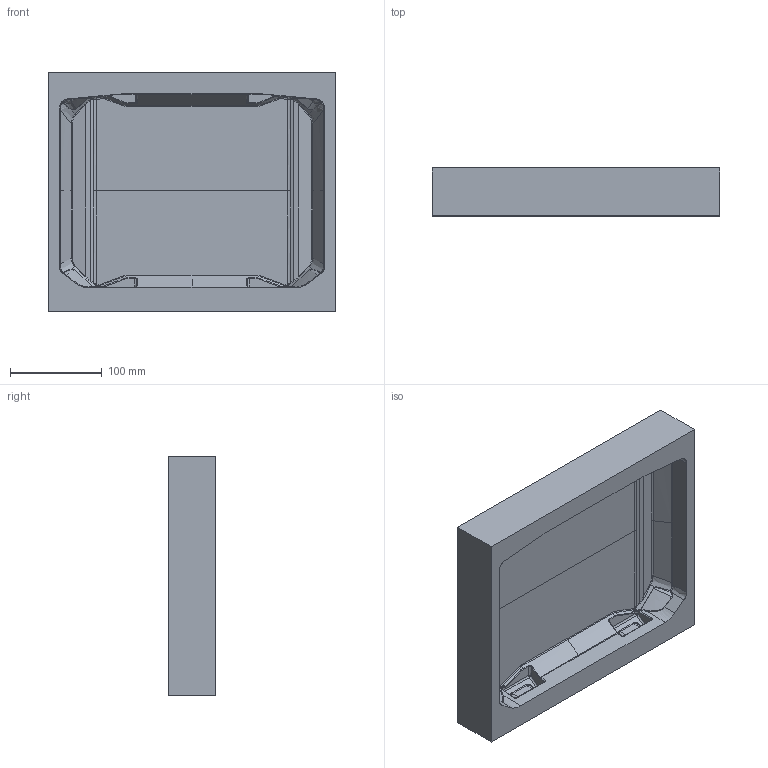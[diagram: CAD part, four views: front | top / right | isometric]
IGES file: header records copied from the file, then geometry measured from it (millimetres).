
Start section: SolidWorks IGES file using analytic representation for surfaces
Global section: file name: C:\Users\chad.chaiyont\My Project\Vault Case\Vault TOR\Vault CAD\PP PID cad\V100 PP\V100 PP tubs\V100 PP TOP TUB 2-5-2024.IGS; native system: SolidWorks 2021; preprocessor: SolidWorks 2021; author: Chad.Chaiyont; date: 240211.195711; units: millimetre
Bounding box: 313.78 x 52.09 x 261.27 mm (x, y, z)
Surface area: 259252.4 mm2 (no closed solid volume)
Topology: 0 solids, 0 shells, 415 faces, 2260 edges, 2244 vertices
Faces by surface type: bspline 415
